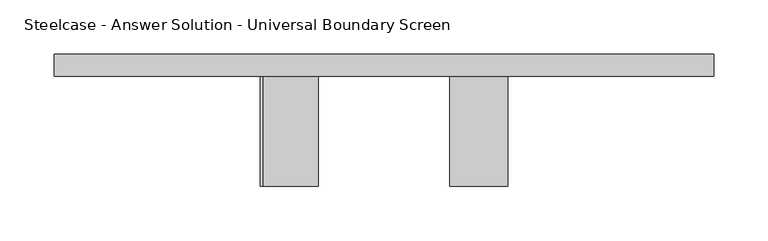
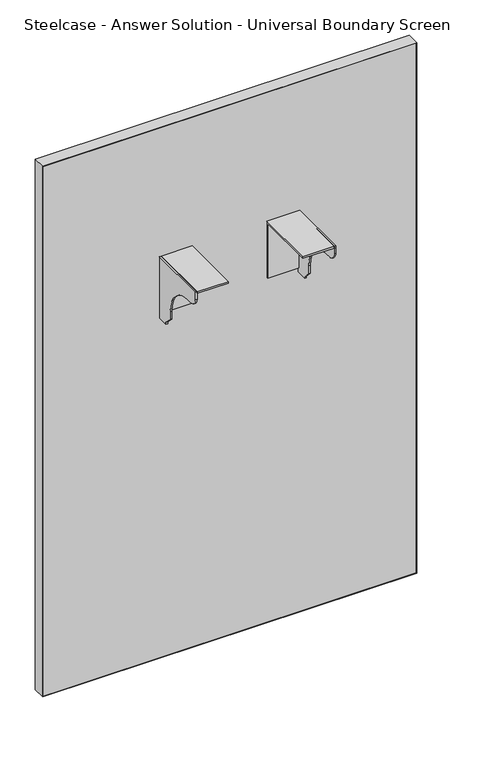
"""IFC4 building model written with IfcOpenShell, lengths in millimetres: furniture geometry, Steelcase - Answer Solution - Universal Boundary Screen : 36H x 24W."""

from ifc_helpers import new_model, si_unit, point, frame, frame_2d, origin, place, context, project, spatial, polyline, circle_curve, trimmed, segment, composite_curve, outline, extrude, source, transform, mapped, element, save


def steelcase_answer_solution_universal_boundary_screen_aae21184(model_context):
    return source(origin(), model_context, "Body", "SweptSolid", [
        extrude(outline(polyline([(-103.1670434, 689.3558876), (-103.1670434, 692.1499758), (-1.5668826, 692.1499758), (-1.5668826, 595.5029317), (-4.1079736, 595.5029317), (-4.1079736, 689.3558876), (-103.1670434, 689.3558876)])), frame((591.0336711, 0.0, 0.0), z_axis=(1.0, 0.0, 0.0), x_axis=(0.0, 1.0, 0.0)), (0.0, 0.0, 1.0), 53.3444116),
        extrude(outline(composite_curve([segment(polyline([(-103.1670434, 679.2814802), (-103.1670434, 692.1499758), (-1.5668826, 692.1499758), (-1.5668826, 586.9634093), (-19.8232934, 586.9634093), (-19.8232934, 589.7574248), (-32.0458032, 601.9799346), (-32.0458032, 615.7814802)]), True, "CONTINUOUS"), segment(trimmed(circle_curve(frame_2d((-82.8458032, 615.7814802)), 50.8), [point((-32.0458032, 615.7814802))], [point((-82.8458032, 666.5814802))], True, "CARTESIAN"), True, "CONTINUOUS"), segment(polyline([(-82.8458032, 666.5814802), (-90.4670434, 666.5814802)]), True, "CONTINUOUS"), segment(trimmed(circle_curve(frame_2d((-90.4670434, 679.2814802)), 12.7), [point((-90.4670434, 666.5814802))], [point((-103.1670434, 679.2814802))], False, "CARTESIAN"), True, "CONTINUOUS")], self_intersect=False)), frame((641.8328959, 0.0, 0.0), z_axis=(1.0, 0.0, 0.0), x_axis=(0.0, 1.0, 0.0)), (0.0, 0.0, 1.0), 2.5451868),
        extrude(outline(polyline([(-103.1670434, 689.3558876), (-103.1670434, 692.1499758), (-1.5668826, 692.1499758), (-1.5668826, 595.5029317), (-4.1079736, 595.5029317), (-4.1079736, 689.3558876), (-103.1670434, 689.3558876)])), frame((418.3232694, 0.0, 0.0), z_axis=(1.0, 0.0, 0.0), x_axis=(0.0, 1.0, 0.0)), (0.0, 0.0, 1.0), 50.7992249),
        extrude(outline(composite_curve([segment(polyline([(-103.1670434, 679.2814802), (-103.1670434, 692.1499758), (-1.5668826, 692.1499758), (-1.5668826, 586.9634093), (-19.8232934, 586.9634093), (-19.8232934, 589.7574248), (-32.0458032, 601.9799346), (-32.0458032, 615.7814802)]), True, "CONTINUOUS"), segment(trimmed(circle_curve(frame_2d((-82.8458032, 615.7814802)), 50.8), [point((-32.0458032, 615.7814802))], [point((-82.8458032, 666.5814802))], True, "CARTESIAN"), True, "CONTINUOUS"), segment(polyline([(-82.8458032, 666.5814802), (-90.4670434, 666.5814802)]), True, "CONTINUOUS"), segment(trimmed(circle_curve(frame_2d((-90.4670434, 679.2814802)), 12.7), [point((-90.4670434, 666.5814802))], [point((-103.1670434, 679.2814802))], False, "CARTESIAN"), True, "CONTINUOUS")], self_intersect=False)), frame((415.7780827, 0.0, 0.0), z_axis=(1.0, 0.0, 0.0), x_axis=(0.0, 1.0, 0.0)), (0.0, 0.0, 1.0), 2.5451868),
        extrude(outline(polyline([(226.2706578, 18.9055112), (833.8855076, 18.9055112), (833.8855076, -1.5668826), (226.2706578, -1.5668826), (226.2706578, 18.9055112)])), frame((0.0, 0.0, 1.016), z_axis=(0.0, 0.0, 1.0), x_axis=(1.0, 0.0, 0.0)), (0.0, 0.0, 1.0), 912.3914249),
        extrude(outline(polyline([(914.4, 834.8780827), (914.4, 225.2780827), (0.0, 225.2780827), (0.0, 834.8780827), (914.4, 834.8780827)]), holes=[polyline([(913.4074249, 833.8855076), (1.016, 833.8855076), (1.016, 226.2706578), (913.4074249, 226.2706578), (913.4074249, 833.8855076)])]), frame((0.0, -1.5668826, 0.0), z_axis=(0.0, 1.0, 0.0), x_axis=(0.0, 0.0, 1.0)), (0.0, 0.0, 1.0), 20.4723938),
    ])


if __name__ == "__main__":
    model = new_model("IFC4")
    model_context = context("Model", 3, world=origin())
    ifc_project = project(units=[si_unit("LENGTHUNIT", "METRE", prefix="MILLI")], contexts=[model_context])
    site = spatial("IfcSite", under=ifc_project)
    building = spatial("IfcBuilding", under=site)
    placement = place(None, origin())
    steelcase_answer_solution_universal_boundary_screen_shape = steelcase_answer_solution_universal_boundary_screen_aae21184(model_context)
    element("IfcFurniture", 1, ObjectType="Steelcase - Answer Solution - Universal Boundary Screen : 36H x 24W", at=placement, inside=building, context=model_context, shape_type="MappedRepresentation", body=[
        mapped(steelcase_answer_solution_universal_boundary_screen_shape, transform((0.0, 0.0, 0.0), x_axis=(1.0, 0.0, 0.0), y_axis=(0.0, 1.0, 0.0), z_axis=(0.0, 0.0, 1.0))),
    ])
    save(model, "model.ifc")
